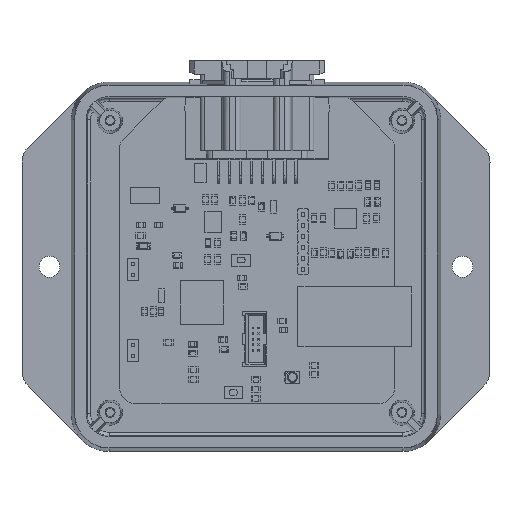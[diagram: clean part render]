
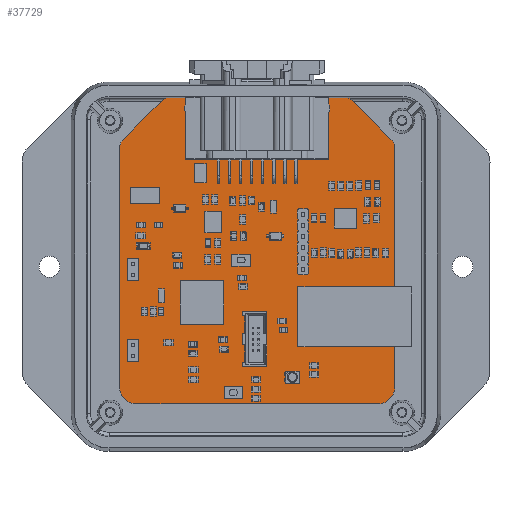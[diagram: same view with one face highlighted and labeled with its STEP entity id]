
A CAD part, top view. The second image highlights one B-rep face of the part: STEP entity #37729.
In plain terms, the highlighted planar face has unit normal (0, 0, 1).
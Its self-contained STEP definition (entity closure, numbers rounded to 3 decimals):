
#37300 = VERTEX_POINT('',#37301);
#37301 = CARTESIAN_POINT('',(-4.763,-0.952,0.));
#37307 = EDGE_CURVE('',#37300,#37308,#37310,.T.);
#37308 = VERTEX_POINT('',#37309);
#37309 = CARTESIAN_POINT('',(-4.75,53.957,0.));
#37310 = LINE('',#37311,#37312);
#37311 = CARTESIAN_POINT('',(-4.763,-0.952,0.));
#37312 = VECTOR('',#37313,1.);
#37313 = DIRECTION('',(0.,1.,0.));
#37338 = EDGE_CURVE('',#37308,#37339,#37341,.T.);
#37339 = VERTEX_POINT('',#37340);
#37340 = CARTESIAN_POINT('',(-4.75,54.101,0.));
#37341 = LINE('',#37342,#37343);
#37342 = CARTESIAN_POINT('',(-4.75,53.957,0.));
#37343 = VECTOR('',#37344,1.);
#37344 = DIRECTION('',(0.,1.,0.));
#37369 = EDGE_CURVE('',#37339,#37370,#37372,.T.);
#37370 = VERTEX_POINT('',#37371);
#37371 = CARTESIAN_POINT('',(-3.852,56.269,0.));
#37372 = CIRCLE('',#37373,3.059);
#37373 = AXIS2_PLACEMENT_3D('',#37374,#37375,#37376);
#37374 = CARTESIAN_POINT('',(-1.691,54.104,0.));
#37375 = DIRECTION('',(0.,0.,-1.));
#37376 = DIRECTION('',(-1.,-0.001,0.));
#37402 = EDGE_CURVE('',#37370,#37403,#37405,.T.);
#37403 = VERTEX_POINT('',#37404);
#37404 = CARTESIAN_POINT('',(5.084,65.205,0.));
#37405 = LINE('',#37406,#37407);
#37406 = CARTESIAN_POINT('',(-3.852,56.269,0.));
#37407 = VECTOR('',#37408,1.);
#37408 = DIRECTION('',(0.707,0.707,0.));
#37433 = EDGE_CURVE('',#37403,#37434,#37436,.T.);
#37434 = VERTEX_POINT('',#37435);
#37435 = CARTESIAN_POINT('',(7.252,66.103,0.));
#37436 = CIRCLE('',#37437,3.059);
#37437 = AXIS2_PLACEMENT_3D('',#37438,#37439,#37440);
#37438 = CARTESIAN_POINT('',(7.249,63.044,0.));
#37439 = DIRECTION('',(0.,0.,-1.));
#37440 = DIRECTION('',(-0.708,0.706,0.));
#37466 = EDGE_CURVE('',#37434,#37467,#37469,.T.);
#37467 = VERTEX_POINT('',#37468);
#37468 = CARTESIAN_POINT('',(46.735,66.103,0.));
#37469 = LINE('',#37470,#37471);
#37470 = CARTESIAN_POINT('',(7.252,66.103,0.));
#37471 = VECTOR('',#37472,1.);
#37472 = DIRECTION('',(1.,0.,0.));
#37497 = EDGE_CURVE('',#37467,#37498,#37500,.T.);
#37498 = VERTEX_POINT('',#37499);
#37499 = CARTESIAN_POINT('',(48.903,65.205,0.));
#37500 = CIRCLE('',#37501,3.059);
#37501 = AXIS2_PLACEMENT_3D('',#37502,#37503,#37504);
#37502 = CARTESIAN_POINT('',(46.738,63.044,0.));
#37503 = DIRECTION('',(0.,0.,-1.));
#37504 = DIRECTION('',(-0.001,1.,0.));
#37530 = EDGE_CURVE('',#37498,#37531,#37533,.T.);
#37531 = VERTEX_POINT('',#37532);
#37532 = CARTESIAN_POINT('',(57.839,56.269,0.));
#37533 = LINE('',#37534,#37535);
#37534 = CARTESIAN_POINT('',(48.903,65.205,0.));
#37535 = VECTOR('',#37536,1.);
#37536 = DIRECTION('',(0.707,-0.707,0.));
#37561 = EDGE_CURVE('',#37531,#37562,#37564,.T.);
#37562 = VERTEX_POINT('',#37563);
#37563 = CARTESIAN_POINT('',(58.737,54.101,0.));
#37564 = CIRCLE('',#37565,3.059);
#37565 = AXIS2_PLACEMENT_3D('',#37566,#37567,#37568);
#37566 = CARTESIAN_POINT('',(55.678,54.104,0.));
#37567 = DIRECTION('',(0.,0.,-1.));
#37568 = DIRECTION('',(0.706,0.708,0.));
#37594 = EDGE_CURVE('',#37562,#37595,#37597,.T.);
#37595 = VERTEX_POINT('',#37596);
#37596 = CARTESIAN_POINT('',(58.737,-0.952,0.));
#37597 = LINE('',#37598,#37599);
#37598 = CARTESIAN_POINT('',(58.737,54.101,0.));
#37599 = VECTOR('',#37600,1.);
#37600 = DIRECTION('',(0.,-1.,0.));
#37625 = EDGE_CURVE('',#37595,#37626,#37628,.T.);
#37626 = VERTEX_POINT('',#37627);
#37627 = CARTESIAN_POINT('',(54.928,-4.763,0.));
#37628 = CIRCLE('',#37629,3.809);
#37629 = AXIS2_PLACEMENT_3D('',#37630,#37631,#37632);
#37630 = CARTESIAN_POINT('',(54.928,-0.954,0.));
#37631 = DIRECTION('',(0.,0.,-1.));
#37632 = DIRECTION('',(1.,0.001,0.));
#37658 = EDGE_CURVE('',#37626,#37659,#37661,.T.);
#37659 = VERTEX_POINT('',#37660);
#37660 = CARTESIAN_POINT('',(-0.952,-4.763,0.));
#37661 = LINE('',#37662,#37663);
#37662 = CARTESIAN_POINT('',(54.928,-4.763,0.));
#37663 = VECTOR('',#37664,1.);
#37664 = DIRECTION('',(-1.,0.,0.));
#37689 = EDGE_CURVE('',#37659,#37300,#37690,.T.);
#37690 = CIRCLE('',#37691,3.81);
#37691 = AXIS2_PLACEMENT_3D('',#37692,#37693,#37694);
#37692 = CARTESIAN_POINT('',(-0.953,-0.953,0.));
#37693 = DIRECTION('',(0.,0.,-1.));
#37694 = DIRECTION('',(0.,-1.,0.));
#37729 = ADVANCED_FACE('',(#37730),#37745,.F.);
#37730 = FACE_BOUND('',#37731,.F.);
#37731 = EDGE_LOOP('',(#37732,#37733,#37734,#37735,#37736,#37737,#37738,
    #37739,#37740,#37741,#37742,#37743,#37744));
#37732 = ORIENTED_EDGE('',*,*,#37307,.T.);
#37733 = ORIENTED_EDGE('',*,*,#37338,.T.);
#37734 = ORIENTED_EDGE('',*,*,#37369,.T.);
#37735 = ORIENTED_EDGE('',*,*,#37402,.T.);
#37736 = ORIENTED_EDGE('',*,*,#37433,.T.);
#37737 = ORIENTED_EDGE('',*,*,#37466,.T.);
#37738 = ORIENTED_EDGE('',*,*,#37497,.T.);
#37739 = ORIENTED_EDGE('',*,*,#37530,.T.);
#37740 = ORIENTED_EDGE('',*,*,#37561,.T.);
#37741 = ORIENTED_EDGE('',*,*,#37594,.T.);
#37742 = ORIENTED_EDGE('',*,*,#37625,.T.);
#37743 = ORIENTED_EDGE('',*,*,#37658,.T.);
#37744 = ORIENTED_EDGE('',*,*,#37689,.T.);
#37745 = PLANE('',#37746);
#37746 = AXIS2_PLACEMENT_3D('',#37747,#37748,#37749);
#37747 = CARTESIAN_POINT('',(-4.763,-0.952,0.));
#37748 = DIRECTION('',(0.,0.,-1.));
#37749 = DIRECTION('',(-1.,0.,0.));
